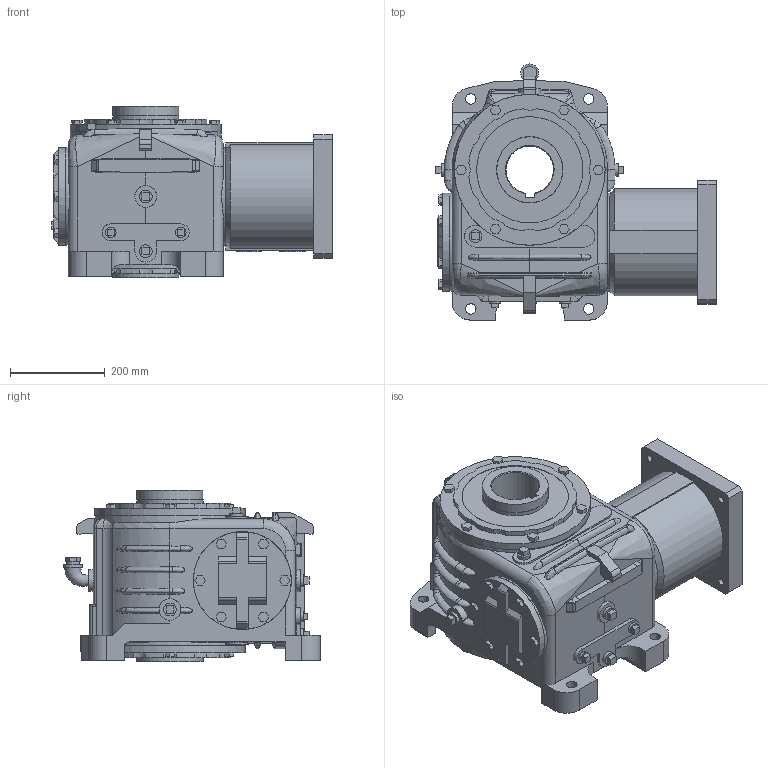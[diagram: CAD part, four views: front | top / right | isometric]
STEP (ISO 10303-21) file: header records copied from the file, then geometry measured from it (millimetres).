
FILE_DESCRIPTION(/* description */ ('Unknown'),/* implementation_level */ '2;1');
FILE_NAME(/* name */ 'V60CU-7AR11SBD-',/* time_stamp */ '2024-11-21T11:49:02-05:00',/* author */ ('Unknown'),/* organization */ ('Unknown'),/* preprocessor_version */ 'ST-DEVELOPER v19.4',/* originating_system */ 'Solid Edge',/* authorisation */ 'Unknown');
FILE_SCHEMA (('AUTOMOTIVE_DESIGN {1 0 10303 214 3 1 1}'));
Length unit declared in the file: millimetre
Products named in the file (8): V60CU-7AR11SBD-; 60-5-CP; 60-OUTHS-3937; 60-OUTH-3937; 60-WCAP; 60-SM20-CP; MP4R-11-CP; KM600-S-48
Assembly tree (7 placements, depth 2):
  V60CU-7AR11SBD-
    60-5-CP
    60-OUTHS-3937
    60-OUTH-3937
    60-WCAP
    60-SM20-CP
    MP4R-11-CP
    KM600-S-48
Bounding box: 590.53 x 539.14 x 361.95 mm (x, y, z)
Volume: 43892305.4 mm3; surface area: 2244557.4 mm2
Topology: 7 solids, 7 shells, 719 faces, 1787 edges, 1166 vertices
Faces by surface type: plane 427, cylinder 184, bspline 103, cone 5
Full cylindrical faces by diameter (mm): 0.254 x7, 12.7 x8, 13.835 x4, 19.05 x6, 22 x4, 22.225 x2, 26.924 x6, 38.1 x1, 44.437 x1, 44.45 x1, 45.72 x4, 46.038 x1, 94.5 x1, 98.425 x1, 122 x1, 127 x1, 127.508 x1, 139 x1, 139.065 x1, 139.7 x4, 140.208 x2, 155.575 x1, 199.998 x1, 200 x1, 206.248 x3, 209.55 x1, 223.774 x2, 250 x1, 317.5 x4
Entity records: 29484 total; most frequent: CARTESIAN_POINT 11047, ORIENTED_EDGE 3390, DIRECTION 3190, EDGE_CURVE 1695, VERTEX_POINT 1148, AXIS2_PLACEMENT_3D 1075, LINE 1040, VECTOR 1040
